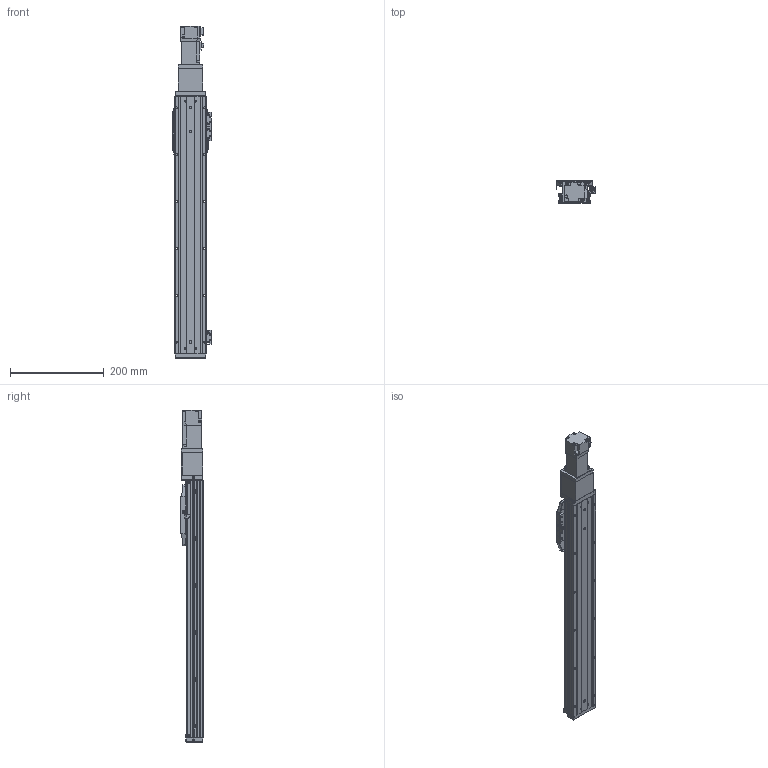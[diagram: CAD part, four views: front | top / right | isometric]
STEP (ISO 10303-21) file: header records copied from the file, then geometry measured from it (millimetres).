
FILE_DESCRIPTION (( 'STEP AP214' ), '1' );
FILE_NAME ('CTHA60-400-BC-M10-C4L.step', '2022-03-19T06:10:10', ( '微软用户' ), ( '微软中国' ), 'SwSTEP 2.0', 'SolidWorks 2020', '' );
FILE_SCHEMA (( 'AUTOMOTIVE_DESIGN' ));
Length unit declared in the file: millimetre
Products named in the file (19): CTHA60-400-BC-M10-C4L; GBT 70.1-M4×16; GBT 70.3-M3℅6; CTHA60-013; CTHA60-005; CTHA60-002; CTHA60-017; GBT77-2000 M3×3; CTHA60-016; CTHA60-001_550; CTHA60-006; GB¨uT 70.2-M3¡Á6_M3¡Á6; CTHA60-031; CTHA60-021; GBT 70.1-M3℅6; CTHA60-027; CTHA60-004; HG-KR13（三菱）; EE_SX911P_R
Assembly tree (57 placements, depth 2):
  CTHA60-400-BC-M10-C4L
    CTHA60-001_550
    CTHA60-004
    CTHA60-005
    GB¨uT 70.2-M3¡Á6_M3¡Á6  x10
    EE_SX911P_R  x3
    CTHA60-017  x3
    CTHA60-021  x2
    GBT 70.1-M4×16  x10
    GBT77-2000 M3×3  x6
    GBT 70.1-M3℅6  x6
    GBT 70.3-M3℅6  x6
    CTHA60-016  x2
    CTHA60-027
    CTHA60-013
    CTHA60-006
    HG-KR13（三菱）
    CTHA60-002
    CTHA60-031
Bounding box: 83.12 x 48 x 708.6 mm (x, y, z)
Volume: 1178014 mm3; surface area: 330778.2 mm2
Topology: 59 solids, 59 shells, 2435 faces, 5797 edges, 3551 vertices
Faces by surface type: plane 1414, cylinder 543, cone 358, torus 96, sphere 24
Entity records: 38464 total; most frequent: CARTESIAN_POINT 6480, DIRECTION 6382, ORIENTED_EDGE 6174, EDGE_CURVE 3087, VECTOR 2274, LINE 2274, AXIS2_PLACEMENT_3D 2054, VERTEX_POINT 1948
